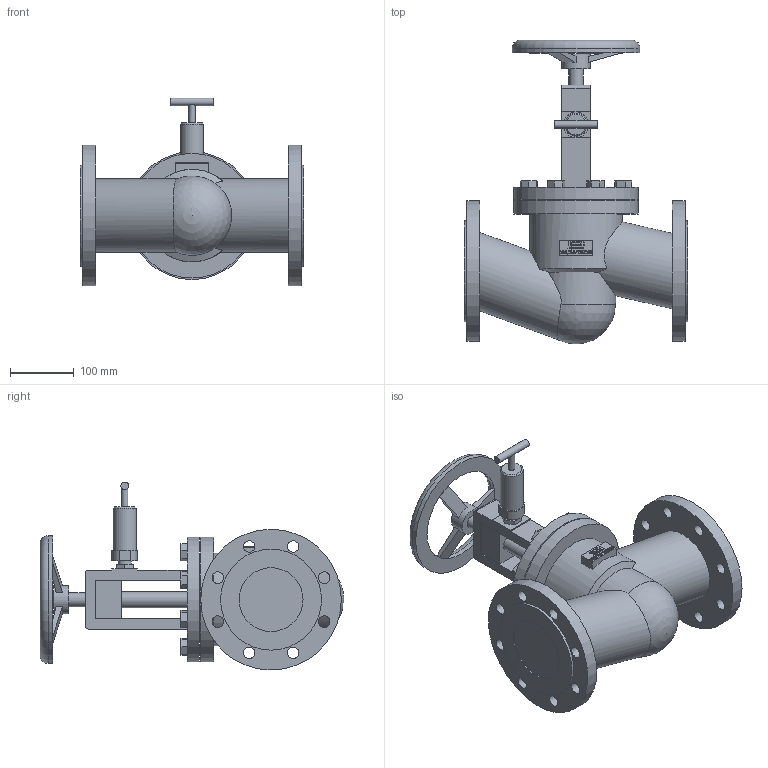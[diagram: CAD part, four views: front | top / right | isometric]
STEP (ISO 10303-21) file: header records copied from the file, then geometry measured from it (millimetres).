
FILE_DESCRIPTION(/* description */ (''),/* implementation_level */ '2;1');
FILE_NAME(/* name */ '100-247HP-DN100-PN16.stp',/* time_stamp */ '2024-07-08T21:52:13+02:00',/* author */ ('roger.thijssen'),/* organization */ (''),/* preprocessor_version */ 'ST-DEVELOPER v20',/* originating_system */ 'Autodesk Inventor 2024',/* authorisation */ '');
FILE_SCHEMA (('AUTOMOTIVE_DESIGN { 1 0 10303 214 3 1 1 }'));
Length unit declared in the file: millimetre
Products named in the file (1): 100-247HP-DN100-PN16
Bounding box: 350 x 475.42 x 294 mm (x, y, z)
Volume: 8314824.4 mm3; surface area: 548080 mm2
Topology: 1 solids, 1 shells, 383 faces, 997 edges, 664 vertices
Faces by surface type: plane 254, bspline 69, cylinder 55, cone 3, torus 1, sphere 1
Full cylindrical faces by diameter (mm): 10 x1, 12 x1, 18 x16, 21 x1, 22 x1, 25 x1, 36 x1, 44 x1, 100 x2, 115 x2, 135 x1, 145 x1, 150 x1, 158 x2, 195 x2, 200 x1, 220 x2
Entity records: 12978 total; most frequent: CARTESIAN_POINT 3369, ORIENTED_EDGE 1992, DIRECTION 1606, EDGE_CURVE 996, LINE 708, VECTOR 708, VERTEX_POINT 664, EDGE_LOOP 474
